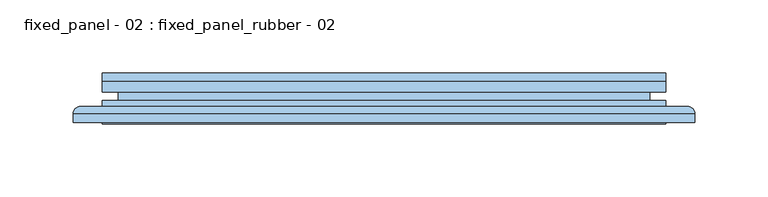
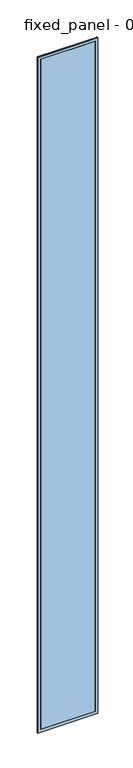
"""IFC4 building model written with IfcOpenShell, lengths in millimetres: window geometry, fixed_panel - 02 : fixed_panel_rubber - 02."""

from ifc_helpers import new_model, si_unit, frame, origin, origin_with_axes, place, context, project, spatial, polyline, ellipse_curve, outline, extrude, faceted_brep, source, transform, mapped, element, save
from ifc_brep_helpers import plane_surface, cylinder_surface, advanced_brep


def fixed_panel_02_fixed_panel_rubber_02_3c9d875f(model_context):
    return source(origin(), model_context, "Body", "SolidModel", [
        advanced_brep(
        [(192.4999306, -27.9878211, 5000.0), (197.4999306, -22.9878211, 5005.0), (197.4999306, -22.9878211, -5.0), (192.4999306, -27.9878211, 0.0), (207.4976085, -22.9878211, -14.9976779), (-207.4976085, -22.9878211, -14.9976779), (-207.4976085, -22.9878211, 5014.9976779), (207.4976085, -22.9878211, 5014.9976779), (-197.4999306, -22.9878211, 5005.0), (-197.4999306, -22.9878211, -5.0), (-192.4999306, -27.9878211, 0.0), (192.4999306, -34.0, 5000.0), (192.4999306, -34.0, 0.0), (-192.4999306, -34.0, 0.0), (212.4932841, -34.0, 5019.9933535), (-212.4932841, -34.0, 5019.9933535), (-212.4932841, -34.0, -19.9933535), (212.4932841, -34.0, -19.9933535), (-192.4999306, -34.0, 5000.0), (212.4932841, -27.9834967, 5019.9933535), (212.4932841, -27.9834967, -19.9933535), (-212.4932841, -27.9834967, -19.9933535), (-192.4999306, -27.9878211, 5000.0), (-212.4932841, -27.9834967, 5019.9933535)],
        [
            (0, 1, ellipse_curve(frame((197.4999306, -27.9878211, 5005.0), z_axis=(0.7071067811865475, 0.0, -0.7071067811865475), x_axis=(0.7071067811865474, 0.0, 0.7071067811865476)), 7.0710678, 5.0)),
            (1, 2),
            (2, 3, ellipse_curve(frame((197.4999306, -27.9878211, -5.0), z_axis=(0.7071067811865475, 0.0, 0.7071067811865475), x_axis=(-0.7071067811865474, 0.0, 0.7071067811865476)), 7.0710678, 5.0)),
            (3, 0),
            (4, 5),
            (5, 6),
            (6, 7),
            (7, 4),
            (1, 8),
            (8, 9),
            (9, 2),
            (9, 10, ellipse_curve(frame((-197.4999306, -27.9878211, -5.0), z_axis=(0.7071067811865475, 0.0, -0.7071067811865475), x_axis=(0.7071067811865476, 0.0, 0.7071067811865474)), 7.0710678, 5.0)),
            (10, 3),
            (11, 0),
            (3, 12),
            (12, 11),
            (10, 13),
            (13, 12),
            (14, 15),
            (15, 16),
            (16, 17),
            (17, 14),
            (13, 18),
            (18, 11),
            (19, 14),
            (17, 20),
            (20, 19),
            (16, 21),
            (21, 20),
            (7, 19, ellipse_curve(frame((207.4976085, -27.9834967, 5014.9976779), z_axis=(0.7071067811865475, 0.0, -0.7071067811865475), x_axis=(0.7071067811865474, 0.0, 0.7071067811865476)), 7.0649521, 4.9956756)),
            (20, 4, ellipse_curve(frame((207.4976085, -27.9834967, -14.9976779), z_axis=(0.7071067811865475, 0.0, 0.7071067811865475), x_axis=(-0.7071067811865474, 0.0, 0.7071067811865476)), 7.0649521, 4.9956756)),
            (21, 5, ellipse_curve(frame((-207.4976085, -27.9834967, -14.9976779), z_axis=(0.7071067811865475, 0.0, -0.7071067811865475), x_axis=(0.7071067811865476, 0.0, 0.7071067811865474)), 7.0649521, 4.9956756)),
            (8, 22, ellipse_curve(frame((-197.4999306, -27.9878211, 5005.0), z_axis=(-0.7071067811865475, 0.0, -0.7071067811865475), x_axis=(0.7071067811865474, 0.0, -0.7071067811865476)), 7.0710678, 5.0)),
            (22, 10),
            (22, 18),
            (15, 23),
            (23, 21),
            (23, 6, ellipse_curve(frame((-207.4976085, -27.9834967, 5014.9976779), z_axis=(-0.7071067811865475, 0.0, -0.7071067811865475), x_axis=(0.7071067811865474, 0.0, -0.7071067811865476)), 7.0649521, 4.9956756)),
            (0, 22),
            (19, 23),
        ],
        [
            cylinder_surface(frame((197.4999306, -27.9878211, 5000.0), z_axis=(0.0, 0.0, 1.0), x_axis=(1.0, 0.0, 0.0)), 5.0),
            plane_surface(frame((-207.4976085, -22.9878211, 5014.9976779), z_axis=(0.0, 1.0, 0.0), x_axis=(1.0, 0.0, 0.0))),
            cylinder_surface(frame((192.4999306, -27.9878211, -5.0), z_axis=(1.0, 0.0, 0.0), x_axis=(0.0, 0.0, -1.0)), 5.0),
            plane_surface(frame((192.4999306, -27.9878211, 5000.0), z_axis=(-1.0, 0.0, 0.0), x_axis=(0.0, 0.0, -1.0))),
            plane_surface(frame((192.4999306, -27.9878211, 0.0), z_axis=(0.0, 0.0, 1.0), x_axis=(-1.0, 0.0, 0.0))),
            plane_surface(frame((-192.4999306, -34.0, 5000.0), z_axis=(0.0, -1.0, 0.0), x_axis=(1.0, 0.0, 0.0))),
            plane_surface(frame((212.4932841, -34.0, 5019.9933535), z_axis=(1.0, 0.0, 0.0), x_axis=(0.0, 0.0, -1.0))),
            plane_surface(frame((212.4932841, -34.0, -19.9933535), z_axis=(0.0, 0.0, -1.0), x_axis=(-1.0, 0.0, 0.0))),
            cylinder_surface(frame((207.4976085, -27.9834967, 5000.0), z_axis=(0.0, 0.0, 1.0), x_axis=(1.0, 0.0, 0.0)), 4.9956756),
            cylinder_surface(frame((192.4999306, -27.9834967, -14.9976779), z_axis=(1.0, 0.0, 0.0), x_axis=(0.0, 0.0, -1.0)), 4.9956756),
            cylinder_surface(frame((-197.4999306, -27.9878211, 0.0), z_axis=(0.0, 0.0, -1.0), x_axis=(-1.0, 0.0, 0.0)), 5.0),
            plane_surface(frame((-192.4999306, -27.9878211, 0.0), z_axis=(1.0, 0.0, 0.0), x_axis=(0.0, 0.0, 1.0))),
            plane_surface(frame((-212.4932841, -34.0, -19.9933535), z_axis=(-1.0, 0.0, 0.0), x_axis=(0.0, 0.0, 1.0))),
            cylinder_surface(frame((-207.4976085, -27.9834967, 0.0), z_axis=(0.0, 0.0, -1.0), x_axis=(-1.0, 0.0, 0.0)), 4.9956756),
            cylinder_surface(frame((-192.4999306, -27.9878211, 5005.0), z_axis=(-1.0, 0.0, 0.0), x_axis=(0.0, 0.0, 1.0)), 5.0),
            plane_surface(frame((-192.4999306, -27.9878211, 5000.0), z_axis=(0.0, 0.0, -1.0), x_axis=(1.0, 0.0, 0.0))),
            plane_surface(frame((-212.4932841, -34.0, 5019.9933535), z_axis=(0.0, 0.0, 1.0), x_axis=(1.0, 0.0, 0.0))),
            cylinder_surface(frame((-192.4999306, -27.9834967, 5014.9976779), z_axis=(-1.0, 0.0, 0.0), x_axis=(0.0, 0.0, 1.0)), 4.9956756),
        ],
        [
            (0, [[1, 2, 3, 4]]),
            (1, [[5, 6, 7, 8], [9, 10, 11, -2]]),
            (2, [[-3, -11, 12, 13]]),
            (3, [[14, -4, 15, 16]]),
            (4, [[-15, -13, 17, 18]]),
            (5, [[19, 20, 21, 22], [-18, 23, 24, -16]]),
            (6, [[25, -22, 26, 27]]),
            (7, [[-26, -21, 28, 29]]),
            (8, [[30, -27, 31, -8]]),
            (9, [[-31, -29, 32, -5]]),
            (10, [[-12, -10, 33, 34]]),
            (11, [[-17, -34, 35, -23]]),
            (12, [[-28, -20, 36, 37]]),
            (13, [[-32, -37, 38, -6]]),
            (14, [[-33, -9, -1, 39]]),
            (15, [[-35, -39, -14, -24]]),
            (16, [[-36, -19, -25, 40]]),
            (17, [[-38, -40, -30, -7]]),
        ],
    ),
        faceted_brep([(166.4999306, -26.0, 4974.0), (166.4999306, -6.0, 4974.0), (166.4999306, -6.0, 26.0), (166.4999306, -26.0, 26.0), (192.4999306, -6.0, 0.0), (-192.4999306, -6.0, 0.0), (-192.4999306, -6.0, 5000.0), (192.4999306, -6.0, 5000.0), (-166.4999306, -6.0, 4974.0), (-166.4999306, -6.0, 26.0), (-166.4999306, -26.0, 26.0), (192.4999306, -26.0, 5000.0), (-192.4999306, -26.0, 5000.0), (-192.4999306, -26.0, 0.0), (192.4999306, -26.0, 0.0), (-166.4999306, -26.0, 4974.0), (192.4999306, -18.8, 5000.0), (192.4999306, -18.8, 0.0), (-192.4999306, -18.8, 0.0), (-192.4999306, -18.8, 5000.0), (181.4999306, -18.8, 4989.0), (-181.4999306, -18.8, 4989.0), (-181.4999306, -18.8, 11.0), (181.4999306, -18.8, 11.0), (181.4999306, -13.2, 4989.0), (181.4999306, -13.2, 11.0), (-181.4999306, -13.2, 11.0), (192.4999306, -13.2, 5000.0), (-192.4999306, -13.2, 5000.0), (-192.4999306, -13.2, 0.0), (192.4999306, -13.2, 0.0), (-181.4999306, -13.2, 4989.0)], [[[0, 1, 2, 3]], [[4, 5, 6, 7], [1, 8, 9, 2]], [[3, 2, 9, 10]], [[11, 12, 13, 14], [3, 10, 15, 0]], [[16, 11, 14, 17]], [[17, 14, 13, 18]], [[17, 18, 19, 16], [20, 21, 22, 23]], [[24, 20, 23, 25]], [[25, 23, 22, 26]], [[27, 28, 29, 30], [25, 26, 31, 24]], [[7, 27, 30, 4]], [[4, 30, 29, 5]], [[10, 9, 8, 15]], [[18, 13, 12, 19]], [[26, 22, 21, 31]], [[5, 29, 28, 6]], [[15, 8, 1, 0]], [[19, 12, 11, 16]], [[31, 21, 20, 24]], [[6, 28, 27, 7]]]),
        extrude(outline(polyline([(192.4999306, -34.0), (-192.4999306, -34.0), (-192.4999306, -26.0), (192.4999306, -26.0), (192.4999306, -34.0)])), origin_with_axes(), (0.0, 0.0, 1.0), 5000.0),
        extrude(outline(polyline([(192.4999306, -6.0), (-192.4999306, -6.0), (-192.4999306, 0.0), (192.4999306, 0.0), (192.4999306, -6.0)])), origin_with_axes(), (0.0, 0.0, 1.0), 5000.0),
    ])


if __name__ == "__main__":
    model = new_model("IFC4")
    model_context = context("Model", 3, world=origin())
    ifc_project = project(units=[si_unit("LENGTHUNIT", "METRE", prefix="MILLI")], contexts=[model_context])
    site = spatial("IfcSite", under=ifc_project)
    building = spatial("IfcBuilding", under=site)
    placement = place(None, origin())
    fixed_panel_02_fixed_panel_rubber_02_shape = fixed_panel_02_fixed_panel_rubber_02_3c9d875f(model_context)
    element("IfcWindow", 1, ObjectType="fixed_panel - 02 : fixed_panel_rubber - 02", at=placement, inside=building, context=model_context, shape_type="MappedRepresentation", body=[
        mapped(fixed_panel_02_fixed_panel_rubber_02_shape, transform((0.0, 0.0, 0.0), x_axis=(1.0, 0.0, 0.0), y_axis=(0.0, 1.0, 0.0), z_axis=(0.0, 0.0, 1.0))),
    ])
    save(model, "model.ifc")
